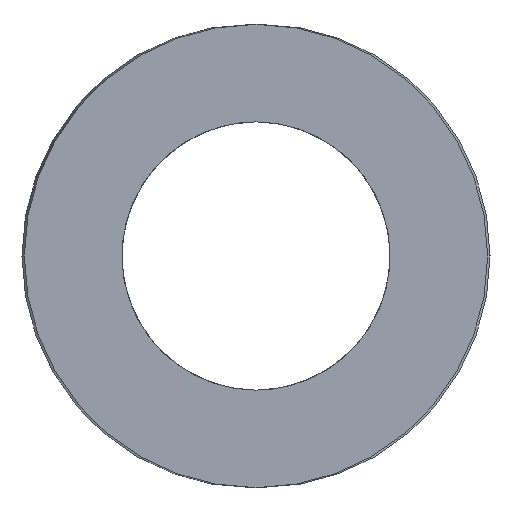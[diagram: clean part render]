
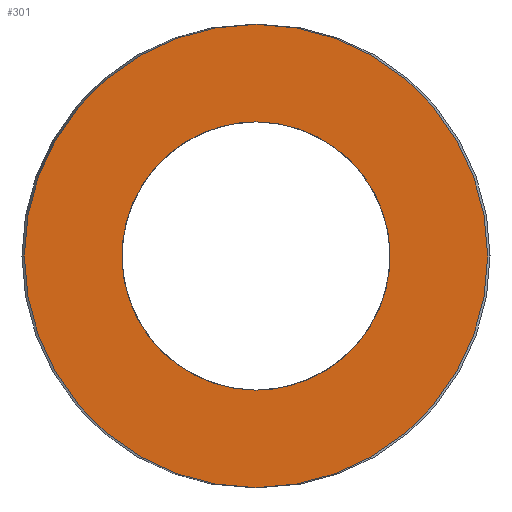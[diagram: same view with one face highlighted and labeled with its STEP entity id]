
A CAD part, left-side view. The second image highlights one B-rep face of the part: STEP entity #301.
In plain terms, the highlighted planar face has unit normal (-1, 0, 0).
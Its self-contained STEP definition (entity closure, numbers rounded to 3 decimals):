
#63=CARTESIAN_POINT('Vertex',(0.,7.6,0.)) ;
#77=CARTESIAN_POINT('Vertex',(0.,-7.6,0.)) ;
#80=CARTESIAN_POINT('Axis2P3D Location',(0.,0.,0.)) ;
#97=CARTESIAN_POINT('Axis2P3D Location',(0.,0.,0.)) ;
#232=CARTESIAN_POINT('Axis2P3D Location',(0.,3.8,0.)) ;
#242=CARTESIAN_POINT('Control Point',(0.,0.,-4.4)) ;
#243=CARTESIAN_POINT('Control Point',(0.,0.411,-4.4)) ;
#244=CARTESIAN_POINT('Control Point',(0.,0.822,-4.352)) ;
#245=CARTESIAN_POINT('Control Point',(0.,1.226,-4.256)) ;
#246=CARTESIAN_POINT('Control Point',(0.,2.003,-3.972)) ;
#247=CARTESIAN_POINT('Control Point',(0.,2.694,-3.516)) ;
#248=CARTESIAN_POINT('Control Point',(0.,3.011,-3.248)) ;
#249=CARTESIAN_POINT('Control Point',(0.,3.577,-2.644)) ;
#250=CARTESIAN_POINT('Control Point',(0.,3.988,-1.926)) ;
#251=CARTESIAN_POINT('Control Point',(0.,4.151,-1.544)) ;
#252=CARTESIAN_POINT('Control Point',(0.,4.384,-0.75)) ;
#253=CARTESIAN_POINT('Control Point',(0.,4.428,0.076)) ;
#254=CARTESIAN_POINT('Control Point',(0.,4.402,0.49)) ;
#255=CARTESIAN_POINT('Control Point',(0.,4.252,1.304)) ;
#256=CARTESIAN_POINT('Control Point',(0.,3.92,2.062)) ;
#257=CARTESIAN_POINT('Control Point',(0.,3.71,2.42)) ;
#258=CARTESIAN_POINT('Control Point',(0.,3.21,3.079)) ;
#259=CARTESIAN_POINT('Control Point',(0.,2.571,3.606)) ;
#260=CARTESIAN_POINT('Control Point',(0.,2.223,3.831)) ;
#261=CARTESIAN_POINT('Control Point',(0.,1.581,4.145)) ;
#262=CARTESIAN_POINT('Control Point',(0.,0.892,4.324)) ;
#263=CARTESIAN_POINT('Control Point',(0.,0.597,4.375)) ;
#264=CARTESIAN_POINT('Control Point',(0.,0.298,4.4)) ;
#265=CARTESIAN_POINT('Control Point',(0.,0.,4.4)) ;
#266=CARTESIAN_POINT('Vertex',(0.,0.,-4.4)) ;
#268=CARTESIAN_POINT('Vertex',(0.,0.,4.4)) ;
#272=CARTESIAN_POINT('Control Point',(0.,0.,4.4)) ;
#273=CARTESIAN_POINT('Control Point',(0.,-0.411,4.4)) ;
#274=CARTESIAN_POINT('Control Point',(0.,-0.822,4.352)) ;
#275=CARTESIAN_POINT('Control Point',(0.,-1.226,4.256)) ;
#276=CARTESIAN_POINT('Control Point',(0.,-2.003,3.972)) ;
#277=CARTESIAN_POINT('Control Point',(0.,-2.694,3.516)) ;
#278=CARTESIAN_POINT('Control Point',(0.,-3.011,3.248)) ;
#279=CARTESIAN_POINT('Control Point',(0.,-3.577,2.644)) ;
#280=CARTESIAN_POINT('Control Point',(0.,-3.988,1.926)) ;
#281=CARTESIAN_POINT('Control Point',(0.,-4.151,1.544)) ;
#282=CARTESIAN_POINT('Control Point',(0.,-4.384,0.75)) ;
#283=CARTESIAN_POINT('Control Point',(0.,-4.428,-0.076)) ;
#284=CARTESIAN_POINT('Control Point',(0.,-4.402,-0.49)) ;
#285=CARTESIAN_POINT('Control Point',(0.,-4.252,-1.304)) ;
#286=CARTESIAN_POINT('Control Point',(0.,-3.92,-2.062)) ;
#287=CARTESIAN_POINT('Control Point',(0.,-3.71,-2.42)) ;
#288=CARTESIAN_POINT('Control Point',(0.,-3.21,-3.079)) ;
#289=CARTESIAN_POINT('Control Point',(0.,-2.571,-3.606)) ;
#290=CARTESIAN_POINT('Control Point',(0.,-2.223,-3.831)) ;
#291=CARTESIAN_POINT('Control Point',(0.,-1.581,-4.145)) ;
#292=CARTESIAN_POINT('Control Point',(0.,-0.892,-4.324)) ;
#293=CARTESIAN_POINT('Control Point',(0.,-0.597,-4.375)) ;
#294=CARTESIAN_POINT('Control Point',(0.,-0.298,-4.4)) ;
#295=CARTESIAN_POINT('Control Point',(0.,0.,-4.4)) ;
#81=DIRECTION('Axis2P3D Direction',(1.,-0.,0.)) ;
#98=DIRECTION('Axis2P3D Direction',(1.,-0.,0.)) ;
#233=DIRECTION('Axis2P3D Direction',(-1.,0.,0.)) ;
#234=DIRECTION('Axis2P3D XDirection',(0.,1.,0.)) ;
#82=AXIS2_PLACEMENT_3D('Circle Axis2P3D',#80,#81,$) ;
#99=AXIS2_PLACEMENT_3D('Circle Axis2P3D',#97,#98,$) ;
#235=AXIS2_PLACEMENT_3D('Plane Axis2P3D',#232,#233,#234) ;
#238=ORIENTED_EDGE('',*,*,#84,.T.) ;
#239=ORIENTED_EDGE('',*,*,#101,.T.) ;
#298=ORIENTED_EDGE('',*,*,#270,.T.) ;
#299=ORIENTED_EDGE('',*,*,#296,.T.) ;
#300=FACE_BOUND('',#297,.T.) ;
#301=ADVANCED_FACE('392-B16-038',(#240,#300),#236,.T.) ;
#241=B_SPLINE_CURVE_WITH_KNOTS('',5,(#242,#243,#244,#245,#246,#247,#248,#249,#250,#251,#252,#253,#254,#255,#256,#257,#258,#259,#260,#261,#262,#263,#264,#265),.UNSPECIFIED.,.F.,.U.,(6,3,3,3,3,3,3,6),(0.,2.907,5.813,8.72,11.626,14.533,17.439,19.549),.UNSPECIFIED.) ;
#271=B_SPLINE_CURVE_WITH_KNOTS('',5,(#272,#273,#274,#275,#276,#277,#278,#279,#280,#281,#282,#283,#284,#285,#286,#287,#288,#289,#290,#291,#292,#293,#294,#295),.UNSPECIFIED.,.F.,.U.,(6,3,3,3,3,3,3,6),(0.,2.907,5.813,8.72,11.626,14.533,17.439,19.549),.UNSPECIFIED.) ;
#83=CIRCLE('generated circle',#82,7.6) ;
#100=CIRCLE('generated circle',#99,7.6) ;
#84=EDGE_CURVE('',#64,#78,#83,.F.) ;
#101=EDGE_CURVE('',#78,#64,#100,.F.) ;
#270=EDGE_CURVE('',#267,#269,#241,.T.) ;
#296=EDGE_CURVE('',#269,#267,#271,.T.) ;
#237=EDGE_LOOP('',(#238,#239)) ;
#297=EDGE_LOOP('',(#298,#299)) ;
#240=FACE_OUTER_BOUND('',#237,.T.) ;
#236=PLANE('Plane',#235) ;
#64=VERTEX_POINT('',#63) ;
#78=VERTEX_POINT('',#77) ;
#267=VERTEX_POINT('',#266) ;
#269=VERTEX_POINT('',#268) ;
